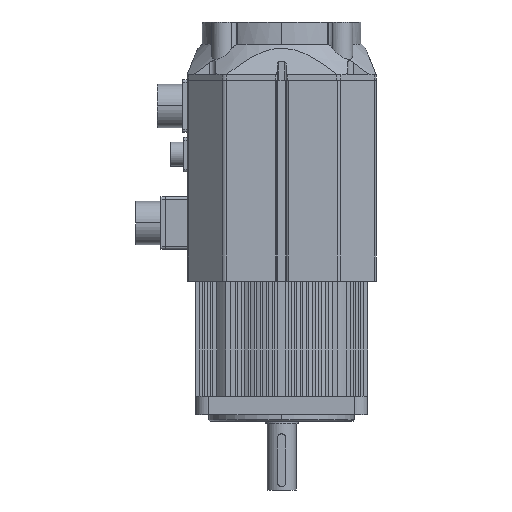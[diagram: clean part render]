
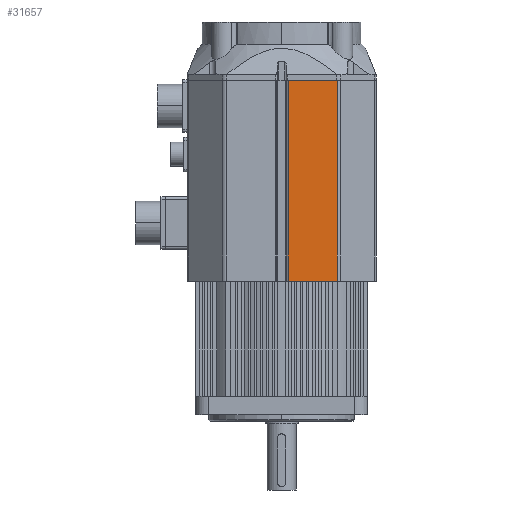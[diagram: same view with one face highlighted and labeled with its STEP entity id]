
A CAD part, left-side view. The second image highlights one B-rep face of the part: STEP entity #31657.
In plain terms, the highlighted planar face has unit normal (-1, 0, 0).
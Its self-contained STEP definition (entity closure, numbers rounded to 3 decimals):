
#390 = CARTESIAN_POINT ( 'NONE',  ( -131.697, -7.521, 7.75 ) ) ;
#558 = EDGE_CURVE ( 'NONE', #14532, #17074, #9014, .T. ) ;
#2884 = PLANE ( 'NONE',  #6726 ) ;
#3656 = EDGE_CURVE ( 'NONE', #13699, #21403, #14676, .T. ) ;
#5956 = DIRECTION ( 'NONE',  ( 0., 0., -1. ) ) ;
#6625 = ORIENTED_EDGE ( 'NONE', *, *, #40588, .T. ) ;
#6726 = AXIS2_PLACEMENT_3D ( 'NONE', #12736, #12458, #16056 ) ;
#8518 = DIRECTION ( 'NONE',  ( 0., 1., 0. ) ) ;
#9014 = LINE ( 'NONE', #11835, #21401 ) ;
#11835 = CARTESIAN_POINT ( 'NONE',  ( -131.697, -44.393, 159.75 ) ) ;
#12203 = CARTESIAN_POINT ( 'NONE',  ( -131.697, -2.493, 7.75 ) ) ;
#12458 = DIRECTION ( 'NONE',  ( -1., 0., 0. ) ) ;
#12736 = CARTESIAN_POINT ( 'NONE',  ( -131.697, -2.493, 159.75 ) ) ;
#13699 = VERTEX_POINT ( 'NONE', #40095 ) ;
#14532 = VERTEX_POINT ( 'NONE', #28395 ) ;
#14676 = LINE ( 'NONE', #15493, #27129 ) ;
#15493 = CARTESIAN_POINT ( 'NONE',  ( -131.697, -7.521, 159.75 ) ) ;
#15535 = ORIENTED_EDGE ( 'NONE', *, *, #3656, .T. ) ;
#16056 = DIRECTION ( 'NONE',  ( 0., 0., 1. ) ) ;
#17074 = VERTEX_POINT ( 'NONE', #29624 ) ;
#17979 = VECTOR ( 'NONE', #8518, 1000. ) ;
#19536 = EDGE_LOOP ( 'NONE', ( #6625, #15535, #25582, #35742 ) ) ;
#21401 = VECTOR ( 'NONE', #34108, 1000. ) ;
#21403 = VERTEX_POINT ( 'NONE', #390 ) ;
#22505 = VECTOR ( 'NONE', #40587, 1000. ) ;
#25582 = ORIENTED_EDGE ( 'NONE', *, *, #35230, .T. ) ;
#26444 = LINE ( 'NONE', #33552, #17979 ) ;
#26484 = LINE ( 'NONE', #12203, #22505 ) ;
#27129 = VECTOR ( 'NONE', #5956, 1000. ) ;
#28235 = FACE_OUTER_BOUND ( 'NONE', #19536, .T. ) ;
#28395 = CARTESIAN_POINT ( 'NONE',  ( -131.697, -44.393, 7.75 ) ) ;
#29624 = CARTESIAN_POINT ( 'NONE',  ( -131.697, -44.393, 159.75 ) ) ;
#31657 = ADVANCED_FACE ( 'NONE', ( #28235 ), #2884, .T. ) ;
#33552 = CARTESIAN_POINT ( 'NONE',  ( -131.697, -2.493, 159.75 ) ) ;
#34108 = DIRECTION ( 'NONE',  ( 0., 0., 1. ) ) ;
#35230 = EDGE_CURVE ( 'NONE', #21403, #14532, #26484, .T. ) ;
#35742 = ORIENTED_EDGE ( 'NONE', *, *, #558, .T. ) ;
#40095 = CARTESIAN_POINT ( 'NONE',  ( -131.697, -7.521, 159.75 ) ) ;
#40587 = DIRECTION ( 'NONE',  ( 0., -1., 0. ) ) ;
#40588 = EDGE_CURVE ( 'NONE', #17074, #13699, #26444, .T. ) ;
